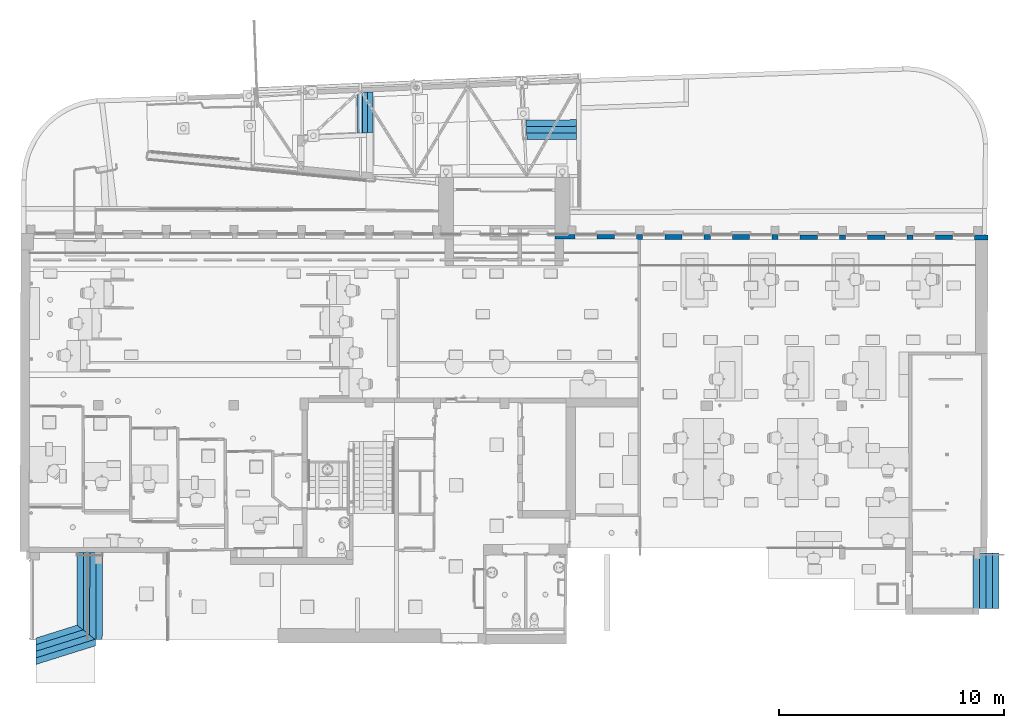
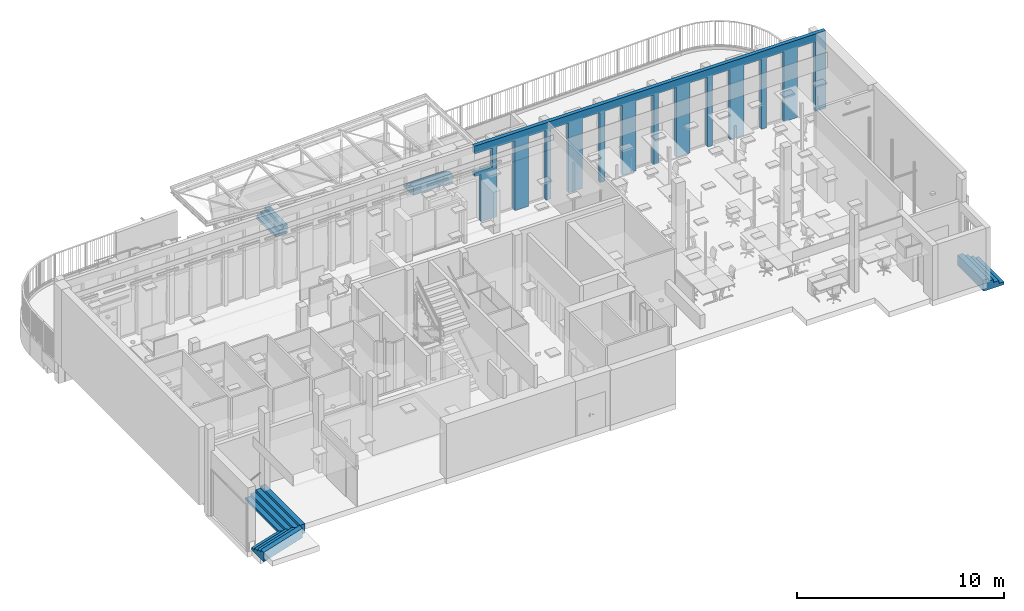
# One storey, part 50 of 128: 5 stair flights, 1 wall, 5 elements without a shape of their own.
"""IFC2X3 building model written with IfcOpenShell, lengths in metres."""

import ifcopenshell
import ifcopenshell.guid

model = None  # the IFC model being written
_history = None  # IfcOwnerHistory: only IFC2X3 demands one
_inside = {}  # id of a spatial element -> (the spatial element, [elements in it])
_under = {}  # id of a project, library or spatial element -> (it, [spatial elements below it])
_declared = {}  # id of a project -> (the project, [libraries it declares])
_typed = {}  # id of a type object -> (the type object, [elements of that type])
_made_of = {}  # id of a material, layer set ... -> (it, [elements and type objects made of it])


def new_model(schema):
    """Start an empty IFC model of exactly this schema.

    Asked for "IFC4X3", IfcOpenShell would pick the latest addendum, in which some entities
    have other attributes; the version numbers below select the first issue.
    IFC2X3 requires an IfcOwnerHistory on every rooted entity: one is made here for all.
    """
    global model, _history
    if schema == "IFC4X3":
        model = ifcopenshell.file(schema_version=(4, 3, 0, 0))
    else:
        model = ifcopenshell.file(schema=schema)
    _inside.clear()
    _under.clear()
    _declared.clear()
    _typed.clear()
    _made_of.clear()
    _history = None
    if model.schema == "IFC2X3":
        org = make("IfcOrganization", Name="unknown")
        user = make(
            "IfcPersonAndOrganization",
            ThePerson=make("IfcPerson", FamilyName="unknown"),
            TheOrganization=org,
        )
        app = make(
            "IfcApplication",
            ApplicationDeveloper=org,
            Version="unknown",
            ApplicationFullName="unknown",
            ApplicationIdentifier="unknown",
        )
        _history = make(
            "IfcOwnerHistory",
            OwningUser=user,
            OwningApplication=app,
            ChangeAction="ADDED",
            CreationDate=0,
        )
    return model


def make(cls, **values):
    """One entity of the class cls with the attributes given. An attribute that is None is left unset."""
    return model.create_entity(
        cls, **{name: value for name, value in values.items() if value is not None}
    )


def entity(cls, *values):
    """Any entity or typed value of the class cls, its attributes in the order of the schema. None: left unset."""
    e = model.create_entity(cls)
    for i, value in enumerate(values):
        if value is not None:
            e[i] = value
    return e


def rooted(cls, **values):
    """An entity with a GlobalId (a new one), such as an element, a storey or a relation."""
    return make(cls, GlobalId=ifcopenshell.guid.new(), OwnerHistory=_history, **values)


def si_unit(unit_type, name, prefix=None):
    """IfcSIUnit, for example si_unit("LENGTHUNIT", "METRE", prefix="MILLI")."""
    return make("IfcSIUnit", UnitType=unit_type, Prefix=prefix, Name=name)


def converted_unit(unit_type, name, factor, base, dimensions=None, offset=None):
    """IfcConversionBasedUnit, such as the inch: factor (a typed value) times the base unit."""
    return make(
        "IfcConversionBasedUnit"
        if offset is None
        else "IfcConversionBasedUnitWithOffset",
        ConversionOffset=offset,
        Dimensions=None
        if dimensions is None
        else entity("IfcDimensionalExponents", *dimensions),
        UnitType=unit_type,
        Name=name,
        ConversionFactor=make(
            "IfcMeasureWithUnit", ValueComponent=factor, UnitComponent=base
        ),
    )


def derived_unit(unit_type, elements):
    """IfcDerivedUnit: a product of units, each with its exponent."""
    return make(
        "IfcDerivedUnit",
        Elements=[
            make("IfcDerivedUnitElement", Unit=unit, Exponent=power)
            for unit, power in elements
        ],
        UnitType=unit_type,
    )


def assignment(units):
    """IfcUnitAssignment: the units of a project."""
    return None if units is None else make("IfcUnitAssignment", Units=units)


def point(xyz):
    """IfcCartesianPoint."""
    return None if xyz is None else make("IfcCartesianPoint", Coordinates=xyz)


def direction(xyz):
    """IfcDirection."""
    return None if xyz is None else make("IfcDirection", DirectionRatios=xyz)


def frame(location, z_axis=None, x_axis=None):
    """IfcAxis2Placement3D, a coordinate frame: its origin and axes. An axis left out is left unset."""
    return make(
        "IfcAxis2Placement3D",
        Location=point(location),
        Axis=direction(z_axis),
        RefDirection=direction(x_axis),
    )


def origin():
    """The frame at (0, 0, 0) with its axes left unset."""
    return frame((0.0, 0.0, 0.0))


def place(relative_to, where):
    """IfcLocalPlacement: puts the frame where relative to a parent placement (None: the world)."""
    return make(
        "IfcLocalPlacement", PlacementRelTo=relative_to, RelativePlacement=where
    )


def context(
    kind, dimensions, precision=None, world=None, true_north=None, identifier=None
):
    """IfcGeometricRepresentationContext, for example the 3D "Model" context."""
    return make(
        "IfcGeometricRepresentationContext",
        ContextIdentifier=identifier,
        ContextType=kind,
        CoordinateSpaceDimension=dimensions,
        Precision=precision,
        WorldCoordinateSystem=world,
        TrueNorth=true_north,
    )


def subcontext(parent, identifier, kind, view, scale=None):
    """IfcGeometricRepresentationSubContext, for example "Body" below "Model"."""
    return make(
        "IfcGeometricRepresentationSubContext",
        ContextIdentifier=identifier,
        ContextType=kind,
        ParentContext=parent,
        TargetScale=scale,
        TargetView=view,
    )


def project(units=None, contexts=None):
    """IfcProject with its units and contexts."""
    return rooted(
        "IfcProject",
        Name="project",
        RepresentationContexts=contexts,
        UnitsInContext=assignment(units),
    )


def spatial(cls, under=None, at=None, **own):
    """A site, building, storey or space (cls), placed at a placement, below another one or the project."""
    s = rooted(cls, ObjectPlacement=at, **own)
    if under is not None:
        _under.setdefault(under.id(), (under, []))[1].append(s)
    return s


def faces_of(points, faces, orient=None, outer=None):
    """IfcFace entities. A face is a list of loops; a loop is a list of indices into points, from 0.

    orient and outer hold one flag for each loop. By default every Orientation is true, the
    first loop of a face is its IfcFaceOuterBound and the others are IfcFaceBound.
    """
    made = []
    for i, loops in enumerate(faces):
        bounds = []
        for j, loop in enumerate(loops):
            is_outer = j == 0 if outer is None else outer[i][j]
            bounds.append(
                make(
                    "IfcFaceOuterBound" if is_outer else "IfcFaceBound",
                    Bound=make("IfcPolyLoop", Polygon=[points[k] for k in loop]),
                    Orientation=True if orient is None else orient[i][j],
                )
            )
        made.append(make("IfcFace", Bounds=bounds))
    return made


def faceted_brep(points, faces, orient=None, outer=None, voids=None):
    """IfcFacetedBrep: a solid bounded by flat faces; with voids (closed shells), ...WithVoids."""
    shared = [point(p) for p in points]
    hull = make("IfcClosedShell", CfsFaces=faces_of(shared, faces, orient, outer))
    if voids is None:
        return make("IfcFacetedBrep", Outer=hull)
    return make(
        "IfcFacetedBrepWithVoids",
        Outer=hull,
        Voids=[
            make(cls, CfsFaces=faces_of(shared, fs, o, b)) for cls, fs, o, b in voids
        ],
    )


def shape(context_of_items, identifier, shape_type, items):
    """IfcShapeRepresentation: the items that make up one representation, for example the "Body"."""
    return make(
        "IfcShapeRepresentation",
        ContextOfItems=context_of_items,
        RepresentationIdentifier=identifier,
        RepresentationType=shape_type,
        Items=items,
    )


def material(Name=None, Category=None):
    """IfcMaterial."""
    return make("IfcMaterial", Name=Name, Category=Category)


def layer(
    of_material, thickness, ventilated=None, Name=None, Category=None, Priority=None
):
    """IfcMaterialLayer: one layer of a wall or slab, of a material (None: an air gap)."""
    return make(
        "IfcMaterialLayer",
        Material=of_material,
        LayerThickness=thickness,
        IsVentilated=ventilated,
        Name=Name,
        Category=Category,
        Priority=Priority,
    )


def layer_set(layers, Name=None):
    """IfcMaterialLayerSet."""
    return make("IfcMaterialLayerSet", MaterialLayers=layers, LayerSetName=Name)


def made_of(thing, what):
    """Note that an element or type object is made of a material, layer set ...; save() writes the relation."""
    if what is not None:
        _made_of.setdefault(what.id(), (what, []))[1].append(thing)
    return thing


def type_object(cls, material=None, **own):
    """A type object (cls), such as IfcWallType, which elements share."""
    return made_of(rooted(cls, **own), material)


def element(
    cls,
    number,
    at=None,
    inside=None,
    cuts=None,
    type_object=None,
    material=None,
    context=None,
    identifier="Body",
    shape_type=None,
    held_by="IfcProductDefinitionShape",
    body=None,
    shapes=None,
    **own,
):
    """One element of the class cls, such as IfcWall. Its Tag is "e" and its number.

    at: its placement. inside: the storey or other place that contains it. cuts: it is an
    opening in that element (IfcRelVoidsElement). A single representation is given by context,
    identifier, shape_type and body (its items); several are given by shapes. held_by: the class
    of the entity that holds the representations. save() writes the other relations.
    """
    e = rooted(cls, Tag="e%d" % number, ObjectPlacement=at, **own)
    if body is not None:
        shapes = [shape(context, identifier, shape_type, body)]
    if shapes is not None:
        e.Representation = make(held_by, Representations=shapes)
    if inside is not None:
        _inside.setdefault(inside.id(), (inside, []))[1].append(e)
    if cuts is not None:
        rooted(
            "IfcRelVoidsElement", RelatingBuildingElement=cuts, RelatedOpeningElement=e
        )
    if type_object is not None:
        _typed.setdefault(type_object.id(), (type_object, []))[1].append(e)
    return made_of(e, material)


def aggregate(whole, parts):
    """IfcRelAggregates: a whole, such as a stair, and the parts it consists of."""
    return rooted("IfcRelAggregates", RelatingObject=whole, RelatedObjects=parts)


def save(model, path):
    """Write the relations noted so far, then the file.

    IfcRelAggregates (storeys below a building ...), IfcRelContainedInSpatialStructure (elements
    in a storey), IfcRelDefinesByType, IfcRelAssociatesMaterial and IfcRelDeclares: one each for
    every whole, place, type object, material and project.
    """
    for whole, parts in _under.values():
        aggregate(whole, parts)
    for where, things in _inside.values():
        rooted(
            "IfcRelContainedInSpatialStructure",
            RelatedElements=things,
            RelatingStructure=where,
        )
    for kind, things in _typed.values():
        rooted("IfcRelDefinesByType", RelatedObjects=things, RelatingType=kind)
    for what, things in _made_of.values():
        rooted("IfcRelAssociatesMaterial", RelatedObjects=things, RelatingMaterial=what)
    for by, libraries in _declared.values():
        rooted("IfcRelDeclares", RelatingContext=by, RelatedDefinitions=libraries)
    model.write(path)


model = new_model("IFC2X3")

# Units and contexts
model_context = context("Model", 3, precision=1e-05, world=origin(), true_north=direction((6.123031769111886e-17, 1.0)))
body_context = subcontext(model_context, "Body", "Model", "MODEL_VIEW")
ifc_project = project(units=[si_unit("LENGTHUNIT", "METRE"), si_unit("AREAUNIT", "SQUARE_METRE"), converted_unit("PLANEANGLEUNIT", "DEGREE", entity("IfcPlaneAngleMeasure", 0.017453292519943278), si_unit("PLANEANGLEUNIT", "RADIAN"), dimensions=[0, 0, 0, 0, 0, 0, 0]), derived_unit("THERMALTRANSMITTANCEUNIT", [(si_unit("MASSUNIT", "GRAM", prefix="KILO"), 1), (si_unit("THERMODYNAMICTEMPERATUREUNIT", "KELVIN"), -1), (si_unit("TIMEUNIT", "SECOND"), -3)])], contexts=[model_context])

# Site, building, storey
site_placement = place(None, origin())
site = spatial("IfcSite", under=ifc_project, at=site_placement, Name="Default", CompositionType="ELEMENT")
building_placement = place(site_placement, origin())
building = spatial("IfcBuilding", under=site, at=building_placement, CompositionType="ELEMENT")
storey_placement = place(building_placement, origin())
storey = spatial("IfcBuildingStorey", under=building, at=storey_placement, Name="00_RDC CAF", CompositionType="ELEMENT", Elevation=2.4982504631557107e-13)

# Wall
ifc_material_1 = material(Name="STR - Beton Mur")
ifc_layer = layer(ifc_material_1, 0.20999999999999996)
ifc_layer_set = layer_set([ifc_layer], Name="Mur de base:M_Ext_Beton_210mm")
wall_type = type_object("IfcWallType", Name="Mur de base:M_Ext_Beton_210mm", PredefinedType="STANDARD", material=ifc_layer_set)
wall_placement = place(storey_placement, frame((29.632183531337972, 144.0275712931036, 0.0), z_axis=(0.0, 0.0, 1.0), x_axis=(0.9999987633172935, -0.0015726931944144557, 0.0)))
element("IfcWall", 1, at=wall_placement, inside=storey, type_object=wall_type, Name="Mur de base:M_Ext_Beton_210mm", ObjectType="Mur de base:M_Ext_Beton_210mm", context=body_context, shape_type="Brep", body=[
    faceted_brep([(19.567820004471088, -0.10500000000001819, 4.5779999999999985), (19.017819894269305, -0.10499999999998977, 4.577999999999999), (0.0, -0.10499999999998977, 4.5779999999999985), (0.0, -0.10499999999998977, 4.127999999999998), (0.9800074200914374, -0.10499999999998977, 4.127999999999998), (0.9800074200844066, -0.10499999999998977, 3.0), (0.0, -0.10499999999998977, 3.0), (0.0, -0.10499999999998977, 2.7999999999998), (0.36027235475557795, -0.10499999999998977, 2.7999999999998), (0.36027235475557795, -0.10499999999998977, 0.0), (1.2536229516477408, -0.10500000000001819, 0.0), (1.253622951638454, -0.10499999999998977, 4.127999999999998), (2.2336229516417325, -0.10499999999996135, 4.127999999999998), (2.23362295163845, -0.10499999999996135, 0.0), (2.9999970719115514, -0.10500000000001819, 0.0), (2.99999707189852, -0.10499999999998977, 4.127999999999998), (3.9799970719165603, -0.10499999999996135, 4.127999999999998), (3.9799970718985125, -0.10499999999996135, 0.0), (4.253620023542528, -0.10499999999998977, 0.0), (4.253620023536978, -0.10499999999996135, 4.127999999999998), (5.233620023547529, -0.10499999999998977, 4.127999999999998), (5.233620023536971, -0.10499999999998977, 0.0), (5.999994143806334, -0.10499999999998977, 0.0), (5.99999414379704, -0.10499999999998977, 4.127999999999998), (6.979994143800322, -0.10499999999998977, 4.127999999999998), (6.979994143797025, -0.10500000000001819, 0.0), (7.253617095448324, -0.10500000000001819, 0.0), (7.253617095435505, -0.10499999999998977, 4.127999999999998), (8.23361709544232, -0.10500000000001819, 4.127999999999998), (8.233617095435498, -0.10500000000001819, 0.0), (8.999991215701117, -0.10499999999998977, 0.0), (8.999991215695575, -0.10500000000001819, 4.127999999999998), (9.979991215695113, -0.10500000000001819, 4.127999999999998), (9.979991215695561, -0.10500000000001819, 0.0), (10.2536141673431, -0.10499999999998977, 0.0), (10.253614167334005, -0.10500000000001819, 4.127999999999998), (11.233614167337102, -0.10499999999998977, 4.127999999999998), (11.233614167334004, -0.10499999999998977, 0.0), (11.999988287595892, -0.10499999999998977, 0.0), (11.999988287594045, -0.10499999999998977, 4.127999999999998), (12.979988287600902, -0.10499999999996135, 4.127999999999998), (12.979988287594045, -0.10499999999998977, 0.0), (13.25361123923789, -0.10499999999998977, 0.0), (13.25361123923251, -0.10500000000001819, 4.127999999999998), (14.233611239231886, -0.10499999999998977, 4.127999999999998), (14.233611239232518, -0.10499999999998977, 0.0), (14.99998535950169, -0.10499999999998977, 0.0), (14.999985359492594, -0.10499999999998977, 4.127999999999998), (15.979985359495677, -0.10500000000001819, 4.127999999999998), (15.979985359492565, -0.10500000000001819, 0.0), (16.253608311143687, -0.10499999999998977, 0.0), (16.253608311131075, -0.10499999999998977, 4.127999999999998), (17.233608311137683, -0.10499999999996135, 4.127999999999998), (17.233608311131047, -0.10499999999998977, 0.0), (17.99998243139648, -0.10500000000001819, 0.0), (17.999982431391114, -0.10500000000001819, 4.127999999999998), (18.97998243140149, -0.10499999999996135, 4.127999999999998), (18.979982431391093, -0.10499999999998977, 0.0), (19.017819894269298, -0.10499999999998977, 0.0), (19.567820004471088, -0.10500000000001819, 0.0), (0.0, 0.10499999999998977, 4.5779999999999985), (0.9802229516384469, 0.10500000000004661, 4.577999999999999), (1.253622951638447, 0.10500000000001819, 4.5779999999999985), (2.233597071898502, 0.10500000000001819, 4.5779999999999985), (2.9999970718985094, 0.10500000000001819, 4.5779999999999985), (3.980220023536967, 0.10500000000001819, 4.5779999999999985), (4.253620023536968, 0.10500000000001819, 4.5779999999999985), (5.233594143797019, 0.10500000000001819, 4.5779999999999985), (5.999994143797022, 0.10500000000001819, 4.5779999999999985), (6.980217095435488, 0.10500000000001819, 4.5779999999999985), (7.253617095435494, 0.10500000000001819, 4.5779999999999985), (8.233591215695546, 0.10500000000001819, 4.577999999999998), (8.99999121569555, 0.10499999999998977, 4.5779999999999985), (9.980214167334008, 0.10499999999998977, 4.5779999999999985), (10.253614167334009, 0.10500000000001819, 4.5779999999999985), (11.233588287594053, 0.10499999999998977, 4.5779999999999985), (11.999988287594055, 0.10500000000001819, 4.5779999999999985), (12.98021123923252, 0.10499999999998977, 4.5779999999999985), (13.253611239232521, 0.10499999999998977, 4.5779999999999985), (14.23358535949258, 0.10500000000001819, 4.5779999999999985), (14.999985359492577, 0.10500000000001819, 4.5779999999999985), (15.98020831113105, 0.10500000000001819, 4.5779999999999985), (16.25360831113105, 0.10500000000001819, 4.5779999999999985), (17.2335824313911, 0.10499999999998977, 4.5779999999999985), (17.99998243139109, 0.10500000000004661, 4.5779999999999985), (18.980205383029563, 0.10500000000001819, 4.5779999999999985), (19.299405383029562, 0.10500000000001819, 4.5779999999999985), (19.5679529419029, 0.10499999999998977, 4.5779999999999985), (19.5679529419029, 0.10499999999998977, 0.0), (19.299405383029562, 0.10500000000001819, 0.0), (18.980205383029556, 0.10500000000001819, 0.0), (18.979982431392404, 0.10500000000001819, 0.0), (18.979982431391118, 0.10500000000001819, 4.127999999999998), (17.99998243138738, 0.10500000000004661, 4.127999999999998), (17.999982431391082, 0.10500000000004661, 0.0), (17.233608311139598, 0.10500000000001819, 0.0), (17.233608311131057, 0.10500000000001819, 4.127999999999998), (16.253608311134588, 0.10500000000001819, 4.127999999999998), (16.25360831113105, 0.10500000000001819, 0.0), (15.98020831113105, 0.10500000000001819, 0.0), (15.979985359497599, 0.10500000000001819, 0.0), (15.979985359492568, 0.10500000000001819, 4.127999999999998), (14.999985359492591, 0.10500000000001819, 4.127999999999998), (14.999985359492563, 0.10500000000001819, 0.0), (14.233611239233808, 0.10500000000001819, 0.0), (14.233611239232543, 0.10500000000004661, 4.127999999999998), (13.25361123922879, 0.10500000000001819, 4.127999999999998), (13.253611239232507, 0.10499999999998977, 0.0), (12.98021123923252, 0.10499999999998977, 0.0), (12.979988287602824, 0.10499999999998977, 0.0), (12.979988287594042, 0.10500000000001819, 4.127999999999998), (11.999988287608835, 0.10500000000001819, 4.127999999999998), (11.999988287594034, 0.10500000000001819, 0.0), (11.233614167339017, 0.10499999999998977, 0.0), (11.233614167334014, 0.10500000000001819, 4.127999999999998), (10.25361416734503, 0.10500000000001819, 4.127999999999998), (10.253614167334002, 0.10500000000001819, 0.0), (9.980214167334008, 0.10499999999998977, 0.0), (9.979991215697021, 0.10500000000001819, 0.0), (9.979991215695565, 0.10500000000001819, 4.127999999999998), (8.999991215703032, 0.10499999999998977, 4.127999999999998), (8.999991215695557, 0.10499999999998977, 0.0), (8.233617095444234, 0.10500000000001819, 0.0), (8.233617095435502, 0.10500000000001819, 4.127999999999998), (7.253617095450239, 0.10500000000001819, 4.127999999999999), (7.253617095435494, 0.10500000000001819, 0.0), (6.980217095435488, 0.10500000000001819, 0.0), (6.979994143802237, 0.10499999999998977, 0.0), (6.979994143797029, 0.10499999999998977, 4.127999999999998), (5.999994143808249, 0.10500000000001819, 4.127999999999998), (5.9999941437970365, 0.10500000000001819, 0.0), (5.233620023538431, 0.10499999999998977, 0.0), (5.233620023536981, 0.10499999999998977, 4.127999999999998), (4.253620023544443, 0.10500000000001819, 4.127999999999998), (4.253620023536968, 0.10500000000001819, 0.0), (3.980220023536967, 0.10500000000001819, 0.0), (3.9799970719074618, 0.10500000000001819, 0.0), (3.979997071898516, 0.10500000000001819, 4.127999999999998), (2.999997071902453, 0.10500000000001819, 4.127999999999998), (2.9999970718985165, 0.10500000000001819, 0.0), (2.2336229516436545, 0.10500000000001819, 0.0), (2.233622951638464, 0.10500000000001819, 4.127999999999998), (1.2536229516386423, 0.10500000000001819, 4.127999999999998), (1.253622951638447, 0.10500000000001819, 0.0), (0.9802229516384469, 0.10500000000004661, 0.0), (0.3602723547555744, 0.10499999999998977, 0.0), (0.36027235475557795, 0.10499999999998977, 2.7999999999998), (0.0, 0.10499999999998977, 2.7999999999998), (0.0, 0.10499999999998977, 3.0), (0.9800074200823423, 0.10500000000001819, 3.0), (0.9800074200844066, 0.10499999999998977, 4.127999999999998), (0.0, 0.10499999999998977, 4.127999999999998)], [[[0, 1, 2, 3, 4, 5, 6, 7, 8, 9, 10, 11, 12, 13, 14, 15, 16, 17, 18, 19, 20, 21, 22, 23, 24, 25, 26, 27, 28, 29, 30, 31, 32, 33, 34, 35, 36, 37, 38, 39, 40, 41, 42, 43, 44, 45, 46, 47, 48, 49, 50, 51, 52, 53, 54, 55, 56, 57, 58, 59]], [[60, 61, 62, 63, 64, 65, 66, 67, 68, 69, 70, 71, 72, 73, 74, 75, 76, 77, 78, 79, 80, 81, 82, 83, 84, 85, 86, 87, 88, 89, 90, 91, 92, 93, 94, 95, 96, 97, 98, 99, 100, 101, 102, 103, 104, 105, 106, 107, 108, 109, 110, 111, 112, 113, 114, 115, 116, 117, 118, 119, 120, 121, 122, 123, 124, 125, 126, 127, 128, 129, 130, 131, 132, 133, 134, 135, 136, 137, 138, 139, 140, 141, 142, 143, 144, 145, 146, 147, 148, 149, 150, 151]], [[142, 11, 10, 143]], [[11, 142, 141, 12]], [[12, 141, 140, 13]], [[138, 15, 14, 139]], [[15, 138, 137, 16]], [[16, 137, 136, 17]], [[133, 19, 18, 134]], [[19, 133, 132, 20]], [[20, 132, 131, 21]], [[129, 23, 22, 130]], [[23, 129, 128, 24]], [[24, 128, 127, 25]], [[124, 27, 26, 125]], [[27, 124, 123, 28]], [[28, 123, 122, 29]], [[120, 31, 30, 121]], [[31, 120, 119, 32]], [[32, 119, 118, 33]], [[115, 35, 34, 116]], [[35, 115, 114, 36]], [[36, 114, 113, 37]], [[111, 39, 38, 112]], [[39, 111, 110, 40]], [[40, 110, 109, 41]], [[106, 43, 42, 107]], [[43, 106, 105, 44]], [[44, 105, 104, 45]], [[102, 47, 46, 103]], [[47, 102, 101, 48]], [[48, 101, 100, 49]], [[97, 51, 50, 98]], [[51, 97, 96, 52]], [[52, 96, 95, 53]], [[93, 55, 54, 94]], [[55, 93, 92, 56]], [[56, 92, 91, 57]], [[10, 9, 145, 144, 143]], [[2, 1, 0, 87, 86, 85, 84, 83, 82, 81, 80, 79, 78, 77, 76, 75, 74, 73, 72, 71, 70, 69, 68, 67, 66, 65, 64, 63, 62, 61, 60]], [[2, 60, 151, 3]], [[8, 7, 147, 146]], [[145, 9, 8, 146]], [[150, 4, 3, 151]], [[4, 150, 149, 5]], [[5, 149, 148, 6]], [[0, 59, 88, 87]], [[147, 7, 6, 148]], [[14, 13, 140, 139]], [[18, 17, 136, 135, 134]], [[22, 21, 131, 130]], [[26, 25, 127, 126, 125]], [[30, 29, 122, 121]], [[34, 33, 118, 117, 116]], [[38, 37, 113, 112]], [[42, 41, 109, 108, 107]], [[46, 45, 104, 103]], [[50, 49, 100, 99, 98]], [[54, 53, 95, 94]], [[59, 58, 57, 91, 90, 89, 88]]]),
])

# Stair, stair flight
type_product = type_object("IfcTypeProduct", Name="Escalier coulé sur place:E_Coule_en_place_Beton_Paillasse_550mm")
stair_1_placement = place(storey_placement, origin())
stair_1 = element("IfcStair", 2, at=stair_1_placement, inside=storey, type_object=type_product, Name="Escalier coulé sur place:Escalier", ObjectType="Escalier coulé sur place:E_Coule_en_place_Beton_Paillasse_550mm", ShapeType="STRAIGHT_RUN_STAIR")
ifc_material_2 = material(Name="<Unnamed>")
stair_flight_type_1 = type_object("IfcStairFlightType", Name="Volée monobloc:E_Beton_550 mm", PredefinedType="NOTDEFINED")
stair_flight_1_placement = place(stair_1_placement, frame((8.79083235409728, 126.1537593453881, 0.0)))
stair_flight_1 = element("IfcStairFlight", 3, at=stair_flight_1_placement, type_object=stair_flight_type_1, material=ifc_material_2, Name="Escalier coulé sur place:Escalier:460320 Run 1", ObjectType="Volée monobloc:E_Beton_550 mm", NumberOfRiser=4, NumberOfTreads=4, RiserHeight=0.4511154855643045, TreadLength=0.9186351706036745, context=body_context, shape_type="Brep", body=[
    faceted_brep([(0.2880451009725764, 3.857086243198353, -0.41250000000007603), (0.008045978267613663, 3.8577871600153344, -0.41250000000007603), (0.0, 0.6436156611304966, -0.41250000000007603), (0.2794482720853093, 0.42286339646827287, -0.41250000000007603), (0.2880451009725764, 3.857086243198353, -0.55), (0.008045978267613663, 3.8577871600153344, -0.55), (0.0, 0.6436156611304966, -0.55), (0.27944827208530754, 0.42286339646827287, -0.55), (0.5680442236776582, 3.8563853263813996, -0.55), (0.8480433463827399, 3.8556844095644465, -0.55), (1.1280424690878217, 3.854983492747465, -0.55), (1.118392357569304, 0.0, -0.55), (0.8383932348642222, 0.0007009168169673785, -0.55), (0.8137819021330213, 0.0007625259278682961, -0.55), (0.5588965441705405, 0.20211113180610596, -0.55), (0.5680442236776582, 3.8563853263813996, -0.275000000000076), (0.2880451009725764, 3.857086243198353, -0.275000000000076), (0.2794482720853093, 0.42286339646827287, -0.275000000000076), (0.5588965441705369, 0.20211113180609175, -0.275000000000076), (0.8480433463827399, 3.8556844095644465, -0.13750000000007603), (0.5680442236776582, 3.8563853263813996, -0.13750000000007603), (0.5588965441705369, 0.20211113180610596, -0.13750000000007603), (0.8137819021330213, 0.0007625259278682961, -0.13750000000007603), (0.8383932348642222, 0.0007009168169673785, -0.13750000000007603), (1.1280424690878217, 3.854983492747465, 0.0), (0.8480433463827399, 3.8556844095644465, 0.0), (0.8383932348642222, 0.0007009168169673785, 0.0), (1.118392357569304, 0.0, 0.0)], [[[0, 1, 2, 3]], [[1, 0, 4, 5]], [[2, 1, 5, 6]], [[3, 2, 6, 7]], [[5, 4, 8, 9, 10, 11, 12, 13, 14, 7, 6]], [[15, 16, 17, 18]], [[4, 0, 16, 15, 8]], [[0, 3, 17, 16]], [[3, 7, 14, 18, 17]], [[19, 20, 21, 22, 23]], [[8, 15, 20, 19, 9]], [[15, 18, 21, 20]], [[18, 14, 13, 22, 21]], [[23, 22, 13, 12]], [[24, 25, 26, 27]], [[9, 19, 25, 24, 10]], [[19, 23, 26, 25]], [[23, 12, 11, 27, 26]], [[24, 27, 11, 10]]]),
])
aggregate(stair_1, [stair_flight_1])

stair_2_placement = place(storey_placement, origin())
stair_2 = element("IfcStair", 4, at=stair_2_placement, inside=storey, type_object=type_product, Name="Escalier coulé sur place:Escalier", ObjectType="Escalier coulé sur place:E_Coule_en_place_Beton_Paillasse_550mm", ShapeType="STRAIGHT_RUN_STAIR")
stair_flight_2_placement = place(stair_2_placement, frame((6.972007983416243, 125.05167070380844, 0.0)))
stair_flight_2 = element("IfcStairFlight", 5, at=stair_flight_2_placement, type_object=stair_flight_type_1, material=ifc_material_2, Name="Escalier coulé sur place:Escalier:460342 Run 1", ObjectType="Volée monobloc:E_Beton_550 mm", NumberOfRiser=4, NumberOfTreads=4, RiserHeight=0.4511154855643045, TreadLength=0.9186351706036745, context=body_context, shape_type="Brep", body=[
    faceted_brep([(2.0846152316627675, 1.5357408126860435, -0.41250000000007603), (1.8188243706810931, 1.7457043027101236, -0.41250000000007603), (0.0, 1.1740215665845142, -0.41250000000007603), (0.0, 0.880516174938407, -0.41250000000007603), (2.0846152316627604, 1.5357408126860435, -0.55), (1.8188243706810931, 1.7457043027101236, -0.5499999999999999), (0.0, 1.1740215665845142, -0.5499999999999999), (0.0, 0.880516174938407, -0.55), (2.3504060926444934, 1.3257773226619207, -0.55), (2.6161969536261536, 1.1158138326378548, -0.55), (2.6326062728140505, 1.1028511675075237, -0.55), (2.6326062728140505, 0.8274661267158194, -0.55), (0.0, 0.0, -0.55), (0.0, 0.29350539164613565, -0.55), (0.0, 0.5870107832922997, -0.55), (2.350406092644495, 1.3257773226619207, -0.275000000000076), (2.084615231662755, 1.5357408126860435, -0.275000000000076), (0.0, 0.880516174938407, -0.275000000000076), (0.0, 0.5870107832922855, -0.275000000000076), (2.6161969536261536, 1.1158138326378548, -0.13750000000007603), (2.3504060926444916, 1.3257773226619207, -0.13750000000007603), (0.0, 0.5870107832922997, -0.13750000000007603), (0.0, 0.29350539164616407, -0.13750000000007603), (2.6326062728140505, 0.8274661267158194, 0.0), (2.6326062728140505, 1.1028511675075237, 0.0), (2.6161969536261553, 1.1158138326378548, 0.0), (0.0, 0.29350539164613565, 0.0), (0.0, 0.0, 0.0)], [[[0, 1, 2, 3]], [[1, 0, 4, 5]], [[2, 1, 5, 6]], [[3, 2, 6, 7]], [[5, 4, 8, 9, 10, 11, 12, 13, 14, 7, 6]], [[15, 16, 17, 18]], [[4, 0, 16, 15, 8]], [[0, 3, 17, 16]], [[3, 7, 14, 18, 17]], [[19, 20, 21, 22]], [[8, 15, 20, 19, 9]], [[15, 18, 21, 20]], [[18, 14, 13, 22, 21]], [[23, 24, 25, 26, 27]], [[24, 23, 11, 10]], [[9, 19, 25, 24, 10]], [[19, 22, 26, 25]], [[22, 13, 12, 27, 26]], [[23, 27, 12, 11]]]),
])
aggregate(stair_2, [stair_flight_2])

stair_3_placement = place(storey_placement, origin())
stair_3 = element("IfcStair", 6, at=stair_3_placement, inside=storey, type_object=type_product, Name="Escalier coulé sur place:Escalier", ObjectType="Escalier coulé sur place:E_Coule_en_place_Beton_Paillasse_550mm", ShapeType="STRAIGHT_RUN_STAIR")
stair_flight_3_placement = place(stair_3_placement, frame((21.219986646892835, 148.62146209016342, 0.0)))
stair_flight_3 = element("IfcStairFlight", 7, at=stair_flight_3_placement, type_object=stair_flight_type_1, material=ifc_material_2, Name="Escalier coulé sur place:Escalier:697161 Run 1", ObjectType="Volée monobloc:E_Beton_550 mm", NumberOfRiser=4, NumberOfTreads=3, RiserHeight=0.5700459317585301, TreadLength=0.9186351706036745, context=body_context, shape_type="Brep", body=[
    faceted_brep([(0.2299683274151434, 1.8126530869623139, -0.5212499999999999), (0.0, 1.8027316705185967, -0.5212499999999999), (0.005985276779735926, 0.0, -0.5212499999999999), (0.23595350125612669, 0.009952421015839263, -0.5212499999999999), (0.2299683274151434, 1.8126530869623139, -0.695), (0.0, 1.8027316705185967, -0.695), (0.005985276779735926, 0.0, -0.695), (0.23595350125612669, 0.009952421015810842, -0.695), (0.4599366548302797, 1.8225745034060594, -0.34749999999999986), (0.2299683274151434, 1.8126530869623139, -0.34749999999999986), (0.23595350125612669, 0.009952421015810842, -0.34749999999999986), (0.46592172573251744, 0.019904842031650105, -0.34749999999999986), (0.4599366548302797, 1.8225745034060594, -0.695), (0.46592172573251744, 0.019904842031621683, -0.695), (0.6899049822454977, 1.8324959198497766, -0.17374999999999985), (0.4599366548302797, 1.8225745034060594, -0.17374999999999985), (0.46592172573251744, 0.019904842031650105, -0.17374999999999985), (0.6958899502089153, 0.029857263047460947, -0.17374999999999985), (0.6899049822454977, 1.8324959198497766, -0.695), (0.6958899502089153, 0.029857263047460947, -0.695)], [[[0, 1, 2, 3]], [[1, 0, 4, 5]], [[2, 1, 5, 6]], [[3, 2, 6, 7]], [[8, 9, 10, 11]], [[4, 0, 9, 8, 12]], [[0, 3, 10, 9]], [[3, 7, 13, 11, 10]], [[14, 15, 16, 17]], [[12, 8, 15, 14, 18]], [[8, 11, 16, 15]], [[11, 13, 19, 17, 16]], [[14, 17, 19, 18]], [[5, 4, 12, 18, 19, 13, 7, 6]]]),
])
aggregate(stair_3, [stair_flight_3])

stair_4_placement = place(storey_placement, origin())
stair_4 = element("IfcStair", 8, at=stair_4_placement, inside=storey, type_object=type_product, Name="Escalier coulé sur place:Escalier", ObjectType="Escalier coulé sur place:E_Coule_en_place_Beton_Paillasse_550mm", ShapeType="STRAIGHT_RUN_STAIR")
stair_flight_4_placement = place(stair_4_placement, frame((28.705053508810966, 148.33376780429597, 0.0)))
stair_flight_4 = element("IfcStairFlight", 9, at=stair_flight_4_placement, type_object=stair_flight_type_1, material=ifc_material_2, Name="Escalier coulé sur place:Escalier:699063 Run 1", ObjectType="Volée monobloc:E_Beton_550 mm", NumberOfRiser=4, NumberOfTreads=3, RiserHeight=0.5700459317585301, TreadLength=0.9186351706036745, context=body_context, shape_type="Brep", body=[
    faceted_brep([(2.240914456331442, 0.595906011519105, -0.5212499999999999), (2.2405056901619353, 0.8859106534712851, -0.5212499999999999), (0.0, 0.8696881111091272, -0.5212499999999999), (0.015408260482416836, 0.579792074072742, -0.5212499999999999), (2.240914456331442, 0.595906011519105, -0.695), (2.2405056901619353, 0.8859106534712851, -0.695), (0.0, 0.8696881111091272, -0.695), (0.015408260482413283, 0.579792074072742, -0.695), (2.241323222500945, 0.3059013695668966, -0.34749999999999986), (2.240914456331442, 0.595906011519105, -0.34749999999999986), (0.015408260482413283, 0.579792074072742, -0.34749999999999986), (0.030816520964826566, 0.2898960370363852, -0.34749999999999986), (2.241323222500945, 0.3059013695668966, -0.695), (0.03081652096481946, 0.2898960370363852, -0.695), (2.2417319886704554, 0.01589672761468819, -0.17374999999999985), (2.241323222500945, 0.3059013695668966, -0.17374999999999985), (0.03081652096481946, 0.2898960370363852, -0.17374999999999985), (0.04622478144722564, 0.0, -0.17374999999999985), (2.2417319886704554, 0.01589672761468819, -0.695), (0.04622478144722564, 0.0, -0.695)], [[[0, 1, 2, 3]], [[1, 0, 4, 5]], [[2, 1, 5, 6]], [[3, 2, 6, 7]], [[8, 9, 10, 11]], [[4, 0, 9, 8, 12]], [[0, 3, 10, 9]], [[3, 7, 13, 11, 10]], [[14, 15, 16, 17]], [[12, 8, 15, 14, 18]], [[8, 11, 16, 15]], [[11, 13, 19, 17, 16]], [[14, 17, 19, 18]], [[5, 4, 12, 18, 19, 13, 7, 6]]]),
])
aggregate(stair_4, [stair_flight_4])

stair_5_placement = place(storey_placement, origin())
stair_5 = element("IfcStair", 10, at=stair_5_placement, inside=storey, type_object=type_product, Name="Escalier coulé sur place:Escalier", ObjectType="Escalier coulé sur place:E_Coule_en_place_Beton_Paillasse_550mm", ShapeType="STRAIGHT_RUN_STAIR")
stair_flight_type_2 = type_object("IfcStairFlightType", Name="Volée monobloc:E_Beton_550 mm", PredefinedType="STRAIGHT")
stair_flight_5_placement = place(stair_5_placement, frame((48.53370882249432, 127.53677720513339, 0.0)))
stair_flight_5 = element("IfcStairFlight", 11, at=stair_flight_5_placement, type_object=stair_flight_type_2, material=ifc_material_2, Name="Escalier coulé sur place:Escalier:460420 Run 1", ObjectType="Volée monobloc:E_Beton_550 mm", NumberOfRiser=4, NumberOfTreads=4, RiserHeight=0.5413385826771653, TreadLength=0.9514435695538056, context=body_context, shape_type="Brep", body=[
    faceted_brep([(0.8699999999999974, 0.0, -0.49500000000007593), (1.1599999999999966, 0.0, -0.49500000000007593), (1.1599999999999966, 2.4607446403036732, -0.49500000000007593), (0.8700000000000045, 2.4607446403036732, -0.49500000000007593), (0.8699999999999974, 0.0, -0.660000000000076), (1.1599999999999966, 0.0, -0.660000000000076), (1.1599999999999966, 2.4607446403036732, -0.660000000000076), (0.8699999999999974, 2.4607446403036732, -0.660000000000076), (0.5799999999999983, 0.0, -0.33000000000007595), (0.8700000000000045, 0.0, -0.33000000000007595), (0.8700000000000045, 2.4607446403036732, -0.33000000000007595), (0.5799999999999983, 2.4607446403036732, -0.33000000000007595), (0.5799999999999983, 0.0, -0.660000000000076), (0.5799999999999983, 2.4607446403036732, -0.660000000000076), (0.28999999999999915, 0.0, -0.165000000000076), (0.5799999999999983, 0.0, -0.165000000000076), (0.5799999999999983, 2.4607446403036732, -0.165000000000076), (0.29000000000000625, 2.4607446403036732, -0.165000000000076), (0.28999999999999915, 0.0, -0.660000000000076), (0.28999999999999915, 2.4607446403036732, -0.660000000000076), (0.0, 0.0, 0.0), (0.29000000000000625, 0.0, 0.0), (0.29000000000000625, 2.4607446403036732, 0.0), (0.0, 2.4607446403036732, 0.0), (0.0, 0.0, -0.6327920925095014), (0.04781995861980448, 0.0, -0.660000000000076), (0.04781995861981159, 2.4607446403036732, -0.6600000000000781), (0.0, 2.4607446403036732, -0.6327920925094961)], [[[0, 1, 2, 3]], [[1, 0, 4, 5]], [[2, 1, 5, 6]], [[3, 2, 6, 7]], [[8, 9, 10, 11]], [[4, 0, 9, 8, 12]], [[0, 3, 10, 9]], [[3, 7, 13, 11, 10]], [[14, 15, 16, 17]], [[12, 8, 15, 14, 18]], [[8, 11, 16, 15]], [[11, 13, 19, 17, 16]], [[20, 21, 22, 23]], [[18, 14, 21, 20, 24, 25]], [[14, 17, 22, 21]], [[17, 19, 26, 27, 23, 22]], [[20, 23, 27, 24]], [[5, 4, 12, 18, 25, 26, 19, 13, 7, 6]], [[26, 25, 24, 27]]]),
])
aggregate(stair_5, [stair_flight_5])

save(model, "model.ifc")
